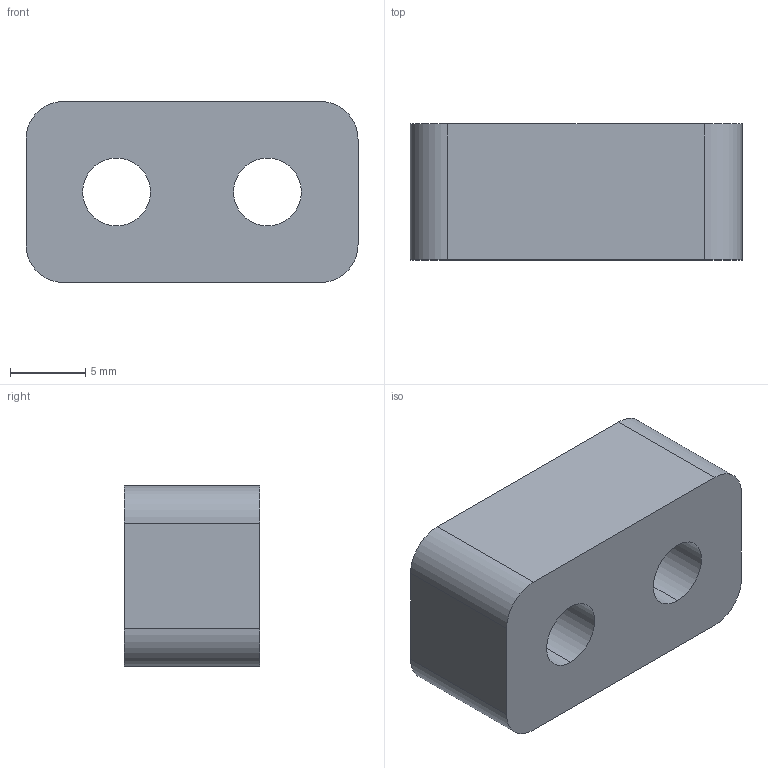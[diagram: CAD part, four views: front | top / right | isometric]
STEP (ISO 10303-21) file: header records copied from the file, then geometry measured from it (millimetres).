
FILE_DESCRIPTION (( 'STEP AP214' ), '1' );
FILE_NAME ('GZ27.12_V1ÏÞÎ»¿é2.STEP', '2021-04-11T11:49:26', ( 'hp' ), ( '' ), 'SwSTEP 2.0', 'SolidWorks 2017', '' );
FILE_SCHEMA (( 'AUTOMOTIVE_DESIGN' ));
Length unit declared in the file: millimetre
Products named in the file (1): GZ27.12_V1癹弇輸2
Bounding box: 22 x 9 x 12 mm (x, y, z)
Volume: 1725.3 mm3; surface area: 1382.7 mm2
Topology: 1 solids, 1 shells, 20 faces, 48 edges, 32 vertices
Faces by surface type: cylinder 12, plane 8
Entity records: 638 total; most frequent: DIRECTION 114, CARTESIAN_POINT 101, ORIENTED_EDGE 96, EDGE_CURVE 48, AXIS2_PLACEMENT_3D 45, VERTEX_POINT 32, EDGE_LOOP 26, CIRCLE 24
